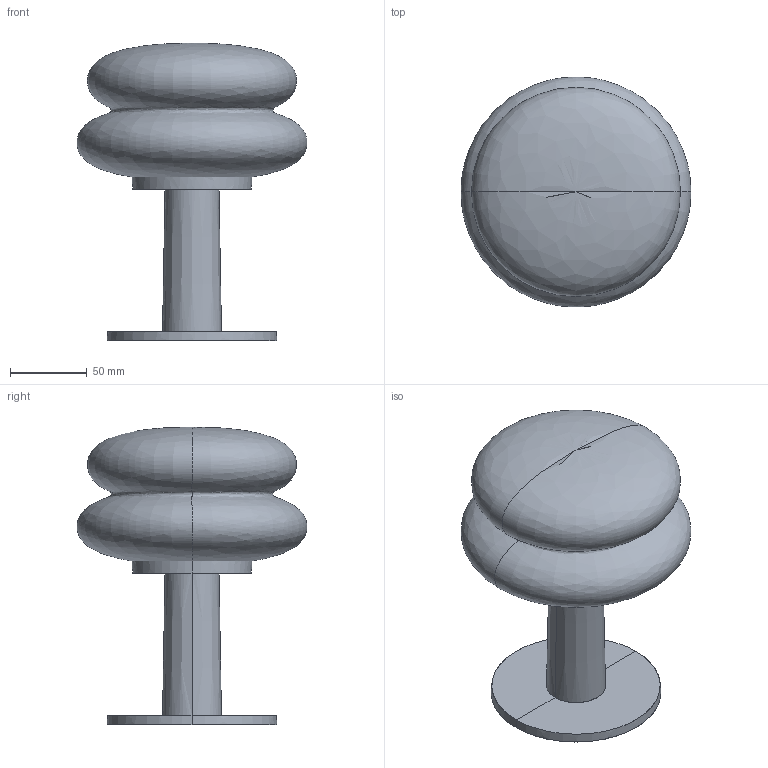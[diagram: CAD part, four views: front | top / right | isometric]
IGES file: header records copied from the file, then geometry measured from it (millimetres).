
Global section: file name: /Users/064_p/Desktop/; native system: Rhinoceros ( Jul  7 2025 ); preprocessor: Trout Lake IGES 012 Jul  7 2025; date: 260825.084017; units: millimetre
Bounding box: 149.95 x 149.93 x 194.1 mm (x, y, z)
Surface area: 96370.2 mm2 (no closed solid volume)
Topology: 0 solids, 0 shells, 13 faces, 60 edges, 58 vertices
Faces by surface type: bspline 13
